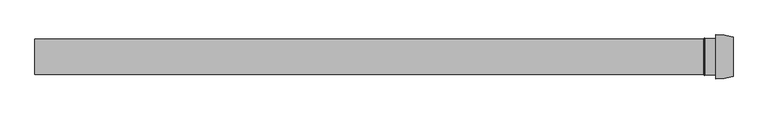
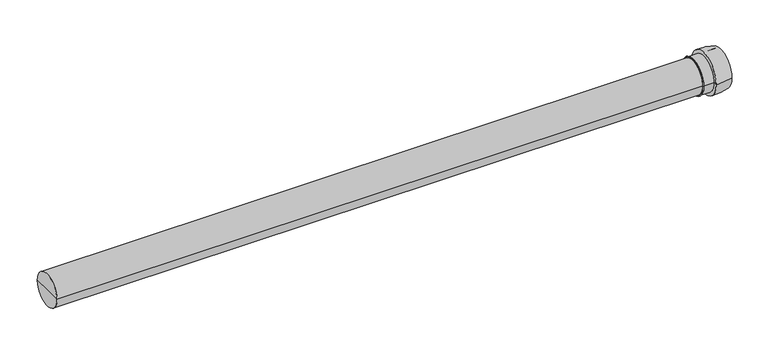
"""IFC4 building model written with IfcOpenShell, lengths in millimetres: duct segment geometry, NLRS_57_AIR_DUF_Easysafe verl pijp PP_M&G : Easysafe verlengpijp."""

from ifc_helpers import new_model, si_unit, point, frame, origin, place, context, project, spatial, polyline, circle_curve, ellipse_curve, trimmed, source, transform, mapped, element, save
from ifc_brep_helpers import plane_surface, cylinder_surface, revolved_surface, advanced_brep


def duct_segment_5e3a6c2d(model_context):
    return source(origin(), model_context, "Body", "AdvancedBrep", [
        advanced_brep(
        [(0.0, 0.0, 0.0), (0.0, 50.0, 0.0), (0.0, -50.0, 0.0), (1940.0, -63.0, 0.0), (1940.0, 63.0, 0.0), (1990.0, 56.6491673, 0.0), (1990.0, -56.6491673, 0.0), (1940.0, -52.5, 0.0), (1940.0, 52.5, 0.0), (1910.0, -52.5, 0.0), (1910.0, 52.5, 0.0), (1907.0, 50.0, 0.0), (1907.0, -50.0, 0.0), (1990.0, 50.0, 0.0), (1990.0, -50.0, 0.0), (1908.5, -54.0, 0.0), (1908.5, 54.0, 0.0), (1907.0, -52.5, 0.0), (1907.0, 52.5, 0.0), (1940.0, -50.0, 0.0), (1940.0, 50.0, 0.0), (1940.0, 0.0, 0.0)],
        [
            (0, 1),
            (1, 2, circle_curve(frame((0.0, 0.0, 0.0), z_axis=(-1.0, 0.0, 0.0), x_axis=(0.0, 1.0, 0.0)), 50.0)),
            (2, 0),
            (2, 1, circle_curve(frame((0.0, 0.0, 0.0), z_axis=(-1.0, 0.0, 0.0), x_axis=(0.0, 1.0, 0.0)), 50.0)),
            (3, 4, circle_curve(frame((1940.0, 0.0, 0.0), z_axis=(1.0, 0.0, 0.0), x_axis=(0.0, 1.0, 0.0)), 63.0)),
            (4, 5, circle_curve(frame((1940.0, -137.0, 0.0), z_axis=(0.0, 0.0, -1.0), x_axis=(1.0, 0.0, 0.0)), 200.0)),
            (5, 6, circle_curve(frame((1990.0, 0.0, 0.0), z_axis=(-1.0, 0.0, 0.0), x_axis=(0.0, 1.0, 0.0)), 56.6491673)),
            (6, 3, circle_curve(frame((1940.0, 137.0, 0.0), z_axis=(0.0, 0.0, -1.0), x_axis=(1.0, 0.0, 0.0)), 200.0)),
            (4, 3, circle_curve(frame((1940.0, 0.0, 0.0), z_axis=(1.0, 0.0, 0.0), x_axis=(0.0, 1.0, 0.0)), 63.0)),
            (6, 5, circle_curve(frame((1990.0, 0.0, 0.0), z_axis=(-1.0, 0.0, 0.0), x_axis=(0.0, 1.0, 0.0)), 56.6491673)),
            (7, 8, circle_curve(frame((1940.0, 0.0, 0.0), z_axis=(1.0, 0.0, 0.0), x_axis=(0.0, 1.0, 0.0)), 52.5)),
            (8, 4),
            (3, 7),
            (8, 7, circle_curve(frame((1940.0, 0.0, 0.0), z_axis=(1.0, 0.0, 0.0), x_axis=(0.0, 1.0, 0.0)), 52.5)),
            (9, 10, circle_curve(frame((1910.0, 0.0, 0.0), z_axis=(1.0, 0.0, 0.0), x_axis=(0.0, 1.0, 0.0)), 52.5)),
            (10, 8),
            (7, 9),
            (10, 9, circle_curve(frame((1910.0, 0.0, 0.0), z_axis=(1.0, 0.0, 0.0), x_axis=(0.0, 1.0, 0.0)), 52.5)),
            (1, 11),
            (11, 12, circle_curve(frame((1907.0, 0.0, 0.0), z_axis=(-1.0, 0.0, 0.0), x_axis=(0.0, 1.0, 0.0)), 50.0)),
            (12, 2),
            (12, 11, circle_curve(frame((1907.0, 0.0, 0.0), z_axis=(-1.0, 0.0, 0.0), x_axis=(0.0, 1.0, 0.0)), 50.0)),
            (5, 13),
            (13, 14, circle_curve(frame((1990.0, 0.0, 0.0), z_axis=(-1.0, 0.0, 0.0), x_axis=(0.0, 1.0, 0.0)), 50.0)),
            (14, 6),
            (14, 13, circle_curve(frame((1990.0, 0.0, 0.0), z_axis=(-1.0, 0.0, 0.0), x_axis=(0.0, 1.0, 0.0)), 50.0)),
            (15, 16, circle_curve(frame((1908.5, 0.0, 0.0), z_axis=(1.0, 0.0, 0.0), x_axis=(0.0, 1.0, 0.0)), 54.0)),
            (16, 10),
            (9, 15),
            (16, 15, circle_curve(frame((1908.5, 0.0, 0.0), z_axis=(1.0, 0.0, 0.0), x_axis=(0.0, 1.0, 0.0)), 54.0)),
            (17, 18, circle_curve(frame((1907.0, 0.0, 0.0), z_axis=(1.0, 0.0, 0.0), x_axis=(0.0, 1.0, 0.0)), 52.5)),
            (18, 16),
            (15, 17),
            (18, 17, circle_curve(frame((1907.0, 0.0, 0.0), z_axis=(1.0, 0.0, 0.0), x_axis=(0.0, 1.0, 0.0)), 52.5)),
            (11, 18),
            (17, 12),
            (19, 20, circle_curve(frame((1940.0, 0.0, 0.0), z_axis=(1.0, 0.0, 0.0), x_axis=(0.0, 1.0, 0.0)), 50.0)),
            (20, 21),
            (21, 19),
            (20, 19, circle_curve(frame((1940.0, 0.0, 0.0), z_axis=(1.0, 0.0, 0.0), x_axis=(0.0, 1.0, 0.0)), 50.0)),
            (13, 20),
            (19, 14),
        ],
        [
            plane_surface(frame((0.0, 0.0, 0.0), z_axis=(-1.0, 0.0, 0.0), x_axis=(0.0, 1.0, 0.0))),
            revolved_surface(trimmed(ellipse_curve(frame((1940.0, -137.0, 0.0), z_axis=(0.0, 0.0, 1.0), x_axis=(1.0, 0.0, 0.0)), 200.0, 200.0), [point((1990.0, 56.6491673, 0.0))], [point((1940.0, 63.0, 0.0))], True, "CARTESIAN"), (-500.0, 0.0, 0.0), (-1.0, 0.0, 0.0)),
            plane_surface(frame((1940.0, 0.0, 0.0), z_axis=(-1.0, 0.0, 0.0), x_axis=(0.0, 1.0, 0.0))),
            cylinder_surface(frame((-500.0, 0.0, 0.0), z_axis=(-1.0, 0.0, 0.0), x_axis=(0.0, 1.0, 0.0)), 52.5),
            cylinder_surface(frame((-500.0, 0.0, 0.0), z_axis=(-1.0, 0.0, 0.0), x_axis=(0.0, 1.0, 0.0)), 50.0),
            plane_surface(frame((1990.0, 0.0, 0.0), z_axis=(1.0, 0.0, 0.0), x_axis=(0.0, 1.0, 0.0))),
            revolved_surface(polyline([(1910.0, 52.5, 0.0), (1908.5, 54.0, 0.0)]), (-500.0, 0.0, 0.0), (-1.0, 0.0, 0.0)),
            revolved_surface(polyline([(1908.5, 54.0, 0.0), (1907.0, 52.5, 0.0)]), (-500.0, 0.0, 0.0), (-1.0, 0.0, 0.0)),
            plane_surface(frame((1907.0, 0.0, 0.0), z_axis=(-1.0, 0.0, 0.0), x_axis=(0.0, 1.0, 0.0))),
            plane_surface(frame((1940.0, 0.0, 0.0), z_axis=(1.0, 0.0, 0.0), x_axis=(0.0, 1.0, 0.0))),
            revolved_surface(polyline([(1940.0, 50.0, 0.0), (1990.0, 50.0, 0.0)]), (-500.0, 0.0, 0.0), (-1.0, 0.0, 0.0)),
        ],
        [
            (0, [[1, 2, 3]]),
            (0, [[-3, 4, -1]]),
            (1, [[5, 6, 7, 8]]),
            (1, [[9, -8, 10, -6]]),
            (2, [[11, 12, -5, 13]]),
            (2, [[14, -13, -9, -12]]),
            (3, [[15, 16, -11, 17]]),
            (3, [[18, -17, -14, -16]]),
            (4, [[-2, 19, 20, 21]]),
            (4, [[-4, -21, 22, -19]]),
            (5, [[-7, 23, 24, 25]]),
            (5, [[-10, -25, 26, -23]]),
            (6, [[27, 28, -15, 29]]),
            (6, [[30, -29, -18, -28]]),
            (7, [[31, 32, -27, 33]]),
            (7, [[34, -33, -30, -32]]),
            (8, [[-20, 35, -31, 36]]),
            (8, [[-22, -36, -34, -35]]),
            (9, [[37, 38, 39]]),
            (9, [[40, -39, -38]]),
            (10, [[-24, 41, -37, 42]]),
            (10, [[-26, -42, -40, -41]]),
        ],
    ),
    ])


if __name__ == "__main__":
    model = new_model("IFC4")
    model_context = context("Model", 3, world=origin())
    ifc_project = project(units=[si_unit("LENGTHUNIT", "METRE", prefix="MILLI")], contexts=[model_context])
    site = spatial("IfcSite", under=ifc_project)
    building = spatial("IfcBuilding", under=site)
    placement = place(None, origin())
    duct_segment_shape = duct_segment_5e3a6c2d(model_context)
    element("IfcDuctSegment", 1, ObjectType="NLRS_57_AIR_DUF_Easysafe verl pijp PP_M&G : Easysafe verlengpijp", at=placement, inside=building, context=model_context, shape_type="MappedRepresentation", body=[
        mapped(duct_segment_shape, transform((0.0, 0.0, 0.0), x_axis=(1.0, 0.0, 0.0), y_axis=(0.0, 1.0, 0.0), z_axis=(0.0, 0.0, 1.0))),
    ])
    save(model, "model.ifc")
